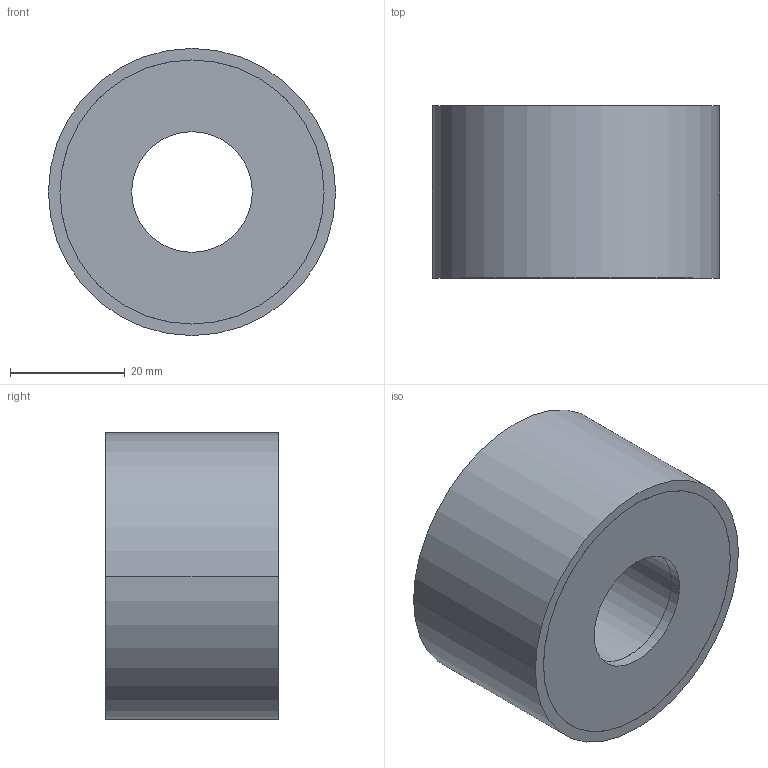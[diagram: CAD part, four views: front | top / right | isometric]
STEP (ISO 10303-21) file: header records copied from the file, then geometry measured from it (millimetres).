
FILE_DESCRIPTION (( 'STEP AP214' ), '1' );
FILE_NAME ('351-50-30-21-DD-70.step', '2025-07-23T10:11:44', ( '' ), ( '' ), 'SwSTEP 2.0', 'SolidWorks 2022', '' );
FILE_SCHEMA (( 'AUTOMOTIVE_DESIGN' ));
Length unit declared in the file: millimetre
Products named in the file (1): 351-50-30-21-DD-70
Bounding box: 50 x 30 x 50 mm (x, y, z)
Volume: 48514 mm3; surface area: 9934.3 mm2
Topology: 1 solids, 1 shells, 30 faces, 60 edges, 40 vertices
Faces by surface type: cylinder 20, plane 10
Entity records: 919 total; most frequent: DIRECTION 162, CARTESIAN_POINT 131, ORIENTED_EDGE 120, AXIS2_PLACEMENT_3D 71, EDGE_CURVE 60, EDGE_LOOP 40, VERTEX_POINT 40, CIRCLE 40
